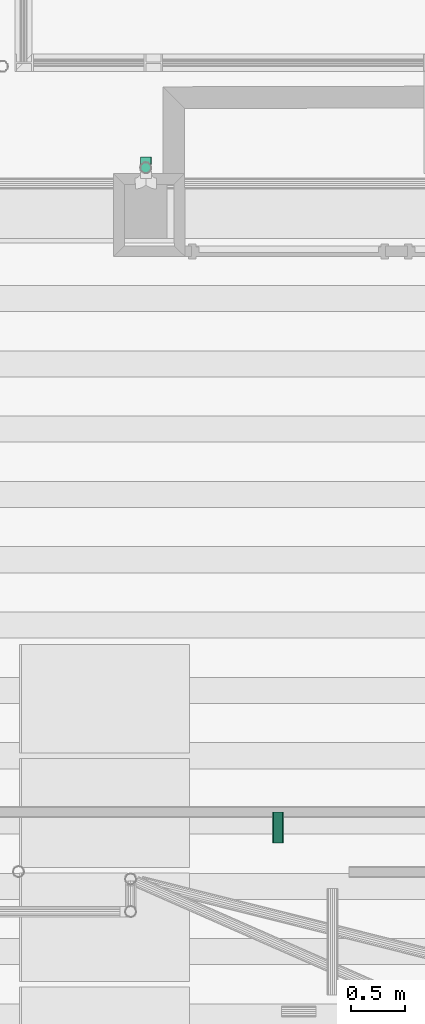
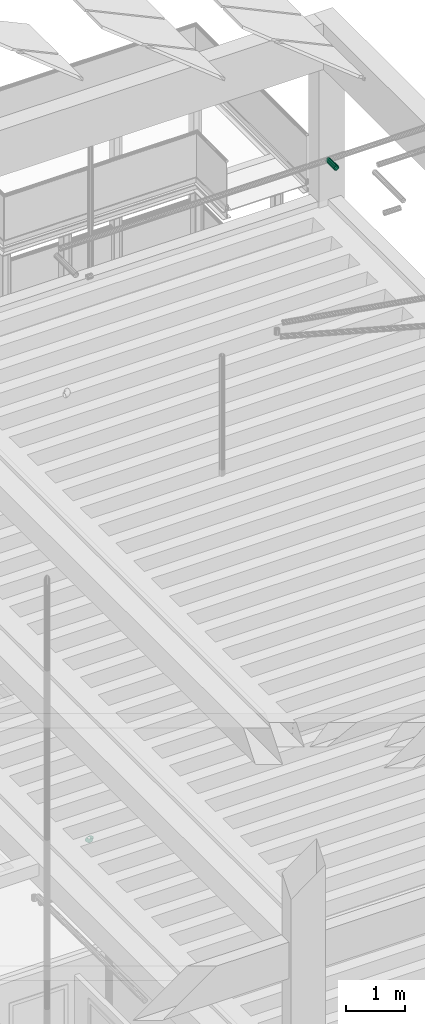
# One storey, part 99 of 108: 1 flow fitting, 1 flow segment.
"""IFC2X3 building model written with IfcOpenShell, lengths in metres."""

from ifc_helpers import new_model, entity, si_unit, converted_unit, derived_unit, money_unit, direction, frame, origin_with_axes, place, context, subcontext, project, spatial, open_shell, faceted_brep, surface_model, material, type_object, element, save


model = new_model("IFC2X3")

# Units and contexts
model_context = context("Model", 3, precision=1e-05, world=origin_with_axes(), true_north=direction((0.0, 1.0)))
body_context = subcontext(model_context, "Body", "Model", "MODEL_VIEW", scale=1.0)
ifc_project = project(units=[si_unit("LENGTHUNIT", "METRE"), si_unit("AREAUNIT", "SQUARE_METRE"), si_unit("VOLUMEUNIT", "CUBIC_METRE"), si_unit("ABSORBEDDOSEUNIT", "GRAY"), si_unit("AMOUNTOFSUBSTANCEUNIT", "MOLE"), si_unit("DOSEEQUIVALENTUNIT", "SIEVERT"), si_unit("ELECTRICCAPACITANCEUNIT", "FARAD"), si_unit("ELECTRICCHARGEUNIT", "COULOMB"), si_unit("ELECTRICCONDUCTANCEUNIT", "SIEMENS"), si_unit("ELECTRICCURRENTUNIT", "AMPERE"), si_unit("ELECTRICRESISTANCEUNIT", "OHM"), si_unit("ELECTRICVOLTAGEUNIT", "VOLT"), si_unit("ENERGYUNIT", "JOULE"), si_unit("FORCEUNIT", "NEWTON"), si_unit("FREQUENCYUNIT", "HERTZ"), si_unit("ILLUMINANCEUNIT", "LUX"), si_unit("INDUCTANCEUNIT", "HENRY"), si_unit("LUMINOUSFLUXUNIT", "LUMEN"), si_unit("LUMINOUSINTENSITYUNIT", "CANDELA"), si_unit("MAGNETICFLUXDENSITYUNIT", "TESLA"), si_unit("MAGNETICFLUXUNIT", "WEBER"), si_unit("MASSUNIT", "GRAM"), converted_unit("PLANEANGLEUNIT", "degree", entity("IfcReal", 0.0174532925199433), si_unit("PLANEANGLEUNIT", "RADIAN"), dimensions=[0, 0, 0, 0, 0, 0, 0]), si_unit("POWERUNIT", "WATT"), si_unit("PRESSUREUNIT", "PASCAL"), si_unit("RADIOACTIVITYUNIT", "BECQUEREL"), si_unit("SOLIDANGLEUNIT", "STERADIAN"), si_unit("THERMODYNAMICTEMPERATUREUNIT", "KELVIN"), si_unit("TIMEUNIT", "SECOND"), derived_unit("ACCELERATIONUNIT", [(si_unit("LENGTHUNIT", "METRE"), 1), (si_unit("TIMEUNIT", "SECOND"), -2)]), derived_unit("ANGULARVELOCITYUNIT", [(converted_unit("PLANEANGLEUNIT", "degree", entity("IfcReal", 0.0174532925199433), si_unit("PLANEANGLEUNIT", "RADIAN"), dimensions=[0, 0, 0, 0, 0, 0, 0]), 1), (si_unit("TIMEUNIT", "SECOND"), -1)]), derived_unit("CURVATUREUNIT", [(converted_unit("PLANEANGLEUNIT", "degree", entity("IfcReal", 0.0174532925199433), si_unit("PLANEANGLEUNIT", "RADIAN"), dimensions=[0, 0, 0, 0, 0, 0, 0]), 1), (si_unit("LENGTHUNIT", "METRE"), -1)]), derived_unit("DYNAMICVISCOSITYUNIT", [(si_unit("PRESSUREUNIT", "PASCAL"), 1), (si_unit("TIMEUNIT", "SECOND"), 1)]), derived_unit("HEATFLUXDENSITYUNIT", [(si_unit("POWERUNIT", "WATT"), 1), (si_unit("LENGTHUNIT", "METRE"), -2)]), derived_unit("HEATINGVALUEUNIT", [(si_unit("ENERGYUNIT", "JOULE"), 1), (si_unit("MASSUNIT", "GRAM"), -1)]), derived_unit("INTEGERCOUNTRATEUNIT", [(si_unit("TIMEUNIT", "SECOND"), -1)]), derived_unit("IONCONCENTRATIONUNIT", [(si_unit("MASSUNIT", "GRAM"), 1), (si_unit("VOLUMEUNIT", "CUBIC_METRE"), -1)]), derived_unit("ISOTHERMALMOISTURECAPACITYUNIT", [(si_unit("VOLUMEUNIT", "CUBIC_METRE"), 1), (si_unit("MASSUNIT", "GRAM"), -1)]), derived_unit("KINEMATICVISCOSITYUNIT", [(si_unit("AREAUNIT", "SQUARE_METRE"), 1), (si_unit("TIMEUNIT", "SECOND"), -1)]), derived_unit("LINEARFORCEUNIT", [(si_unit("FORCEUNIT", "NEWTON"), 1), (si_unit("LENGTHUNIT", "METRE"), -1)]), derived_unit("LINEARMOMENTUNIT", [(si_unit("FORCEUNIT", "NEWTON"), 1), (si_unit("LENGTHUNIT", "METRE"), -1)]), derived_unit("LINEARSTIFFNESSUNIT", [(si_unit("FORCEUNIT", "NEWTON"), 1), (si_unit("LENGTHUNIT", "METRE"), -1)]), derived_unit("LINEARVELOCITYUNIT", [(si_unit("LENGTHUNIT", "METRE"), 1), (si_unit("TIMEUNIT", "SECOND"), -1)]), derived_unit("LUMINOUSINTENSITYDISTRIBUTIONUNIT", [(si_unit("LUMINOUSINTENSITYUNIT", "CANDELA"), 1), (si_unit("LUMINOUSFLUXUNIT", "LUMEN"), -1)]), derived_unit("MASSDENSITYUNIT", [(si_unit("MASSUNIT", "GRAM"), 1), (si_unit("VOLUMEUNIT", "CUBIC_METRE"), -1)]), derived_unit("MASSFLOWRATEUNIT", [(si_unit("MASSUNIT", "GRAM"), 1), (si_unit("TIMEUNIT", "SECOND"), -1)]), derived_unit("MASSPERLENGTHUNIT", [(si_unit("MASSUNIT", "GRAM"), 1), (si_unit("LENGTHUNIT", "METRE"), -1)]), derived_unit("MODULUSOFELASTICITYUNIT", [(si_unit("FORCEUNIT", "NEWTON"), 1), (si_unit("AREAUNIT", "SQUARE_METRE"), -1)]), derived_unit("MODULUSOFLINEARSUBGRADEREACTIONUNIT", [(si_unit("FORCEUNIT", "NEWTON"), 1), (si_unit("LENGTHUNIT", "METRE"), -2)]), derived_unit("MODULUSOFROTATIONALSUBGRADEREACTIONUNIT", [(si_unit("FORCEUNIT", "NEWTON"), 1), (si_unit("LENGTHUNIT", "METRE"), 1)]), derived_unit("MODULUSOFSUBGRADEREACTIONUNIT", [(si_unit("FORCEUNIT", "NEWTON"), 1), (si_unit("VOLUMEUNIT", "CUBIC_METRE"), -1)]), derived_unit("MOISTUREDIFFUSIVITYUNIT", [(si_unit("VOLUMEUNIT", "CUBIC_METRE"), 1), (si_unit("TIMEUNIT", "SECOND"), -1)]), derived_unit("MOLECULARWEIGHTUNIT", [(si_unit("MASSUNIT", "GRAM"), 1), (si_unit("AMOUNTOFSUBSTANCEUNIT", "MOLE"), -1)]), derived_unit("PLANARFORCEUNIT", [(si_unit("FORCEUNIT", "NEWTON"), 1), (si_unit("LENGTHUNIT", "METRE"), -2)]), derived_unit("ROTATIONALFREQUENCYUNIT", [(si_unit("TIMEUNIT", "SECOND"), -1)]), derived_unit("ROTATIONALMASSUNIT", [(si_unit("MASSUNIT", "GRAM"), 1), (si_unit("LENGTHUNIT", "METRE"), 2)]), derived_unit("ROTATIONALSTIFFNESSUNIT", [(si_unit("FORCEUNIT", "NEWTON"), 1), (si_unit("LENGTHUNIT", "METRE"), 1), (converted_unit("PLANEANGLEUNIT", "degree", entity("IfcReal", 0.0174532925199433), si_unit("PLANEANGLEUNIT", "RADIAN"), dimensions=[0, 0, 0, 0, 0, 0, 0]), -1)]), derived_unit("SECTIONAREAINTEGRALUNIT", [(si_unit("LENGTHUNIT", "METRE"), 5)]), derived_unit("SECTIONMODULUSUNIT", [(si_unit("LENGTHUNIT", "METRE"), 3)]), derived_unit("SHEARMODULUSUNIT", [(si_unit("FORCEUNIT", "NEWTON"), 1), (si_unit("AREAUNIT", "SQUARE_METRE"), -1)]), derived_unit("SOUNDPOWERUNIT", [(si_unit("ENERGYUNIT", "JOULE"), 1), (si_unit("TIMEUNIT", "SECOND"), -1)]), derived_unit("SPECIFICHEATCAPACITYUNIT", [(si_unit("FORCEUNIT", "NEWTON"), 1), (si_unit("MASSUNIT", "GRAM"), -1), (si_unit("THERMODYNAMICTEMPERATUREUNIT", "KELVIN"), -1)]), derived_unit("TEMPERATUREGRADIENTUNIT", [(si_unit("THERMODYNAMICTEMPERATUREUNIT", "KELVIN"), 1), (si_unit("LENGTHUNIT", "METRE"), -1)]), derived_unit("THERMALADMITTANCEUNIT", [(si_unit("POWERUNIT", "WATT"), 1), (si_unit("AREAUNIT", "SQUARE_METRE"), -1), (si_unit("THERMODYNAMICTEMPERATUREUNIT", "KELVIN"), -1)]), derived_unit("THERMALCONDUCTANCEUNIT", [(si_unit("POWERUNIT", "WATT"), 1), (si_unit("LENGTHUNIT", "METRE"), -1), (si_unit("THERMODYNAMICTEMPERATUREUNIT", "KELVIN"), -1)]), derived_unit("THERMALEXPANSIONCOEFFICIENTUNIT", [(si_unit("THERMODYNAMICTEMPERATUREUNIT", "KELVIN"), -1)]), derived_unit("THERMALRESISTANCEUNIT", [(si_unit("AREAUNIT", "SQUARE_METRE"), 1), (si_unit("POWERUNIT", "WATT"), -1)]), derived_unit("THERMALTRANSMITTANCEUNIT", [(si_unit("POWERUNIT", "WATT"), 1), (si_unit("AREAUNIT", "SQUARE_METRE"), -1), (si_unit("THERMODYNAMICTEMPERATUREUNIT", "KELVIN"), -1)]), derived_unit("TORQUEUNIT", [(si_unit("FORCEUNIT", "NEWTON"), 1), (si_unit("LENGTHUNIT", "METRE"), 1)]), derived_unit("VAPORPERMEABILITYUNIT", [(si_unit("MASSUNIT", "GRAM"), 1), (si_unit("TIMEUNIT", "SECOND"), -1)]), derived_unit("VOLUMETRICFLOWRATEUNIT", [(si_unit("VOLUMEUNIT", "CUBIC_METRE"), 1), (si_unit("TIMEUNIT", "SECOND"), -1)]), derived_unit("WARPINGCONSTANTUNIT", [(si_unit("LENGTHUNIT", "METRE"), 6)]), derived_unit("WARPINGMOMENTUNIT", [(si_unit("FORCEUNIT", "NEWTON"), 1), (si_unit("LENGTHUNIT", "METRE"), 2)]), money_unit("GBP")], contexts=[model_context])

# Site, building, storey
site_placement = place(None, origin_with_axes())
site = spatial("IfcSite", under=ifc_project, at=site_placement, Name="Site", CompositionType="ELEMENT")
building_placement = place(site_placement, origin_with_axes())
building = spatial("IfcBuilding", under=site, at=building_placement, Name="Building01", CompositionType="ELEMENT")
storey_placement = place(building_placement, origin_with_axes())
storey = spatial("IfcBuildingStorey", under=building, at=storey_placement, Name="GF", CompositionType="ELEMENT", Elevation=0.0)

# Flow segment
ifc_material_1 = material(Name="M_BSUK_Ventilation")
duct_segment_type = type_object("IfcDuctSegmentType", Name="M-RoundDuct", PredefinedType="RIGIDSEGMENT")
flow_segment_placement = place(storey_placement, frame((23.43, 8.749648, 17.28), z_axis=(0.0, 0.0, 1.0), x_axis=(0.0, 1.0, 0.0)))
element("IfcFlowSegment", 1, at=flow_segment_placement, inside=storey, type_object=duct_segment_type, material=ifc_material_1, Name="M-RoundDuct", ObjectType="M-RoundDuct", context=body_context, shape_type="Brep", body=[
    faceted_brep([(0.282911, 0.0, -0.05), (0.0, 0.0, -0.05), (0.0, 0.019134, -0.046194), (0.282911, 0.019134, -0.046194), (0.0, 0.035355, -0.035355), (0.282911, 0.035355, -0.035355), (0.0, 0.046194, -0.019134), (0.282911, 0.046194, -0.019134), (0.0, 0.05, 0.0), (0.282911, 0.05, 0.0), (0.0, 0.046194, 0.019134), (0.282911, 0.046194, 0.019134), (0.0, 0.035355, 0.035355), (0.282911, 0.035355, 0.035355), (0.0, 0.019134, 0.046194), (0.282911, 0.019134, 0.046194), (0.0, 0.0, 0.05), (0.282911, 0.0, 0.05), (0.0, -0.019134, 0.046194), (0.282911, -0.019134, 0.046194), (0.0, -0.035355, 0.035355), (0.282911, -0.035355, 0.035355), (0.0, -0.046194, 0.019134), (0.282911, -0.046194, 0.019134), (0.0, -0.05, 0.0), (0.282911, -0.05, 0.0), (0.0, -0.046194, -0.019134), (0.282911, -0.046194, -0.019134), (0.0, -0.035355, -0.035355), (0.282911, -0.035355, -0.035355), (0.0, -0.019134, -0.046194), (0.282911, -0.019134, -0.046194)], [[[0, 1, 2, 3]], [[3, 2, 4, 5]], [[5, 4, 6, 7]], [[7, 6, 8, 9]], [[9, 8, 10, 11]], [[11, 10, 12, 13]], [[13, 12, 14, 15]], [[15, 14, 16, 17]], [[17, 16, 18, 19]], [[19, 18, 20, 21]], [[21, 20, 22, 23]], [[23, 22, 24, 25]], [[25, 24, 26, 27]], [[27, 26, 28, 29]], [[29, 28, 30, 31]], [[31, 30, 1, 0]]]),
])

# Space
space_placement = place(storey_placement, frame((22.371795, 15.69597, 0.0), z_axis=(0.0, 0.0, 1.0), x_axis=(0.99999771, 0.00214134, 0.0)))
space = spatial("IfcSpace", under=storey, at=space_placement, Name="bike store", CompositionType="ELEMENT", InteriorOrExteriorSpace="NOTDEFINED")

# Flow fitting
ifc_material_2 = material(Name="M_BSUK_ColdWater")
pipe_fitting_type = type_object("IfcPipeFittingType", Name="M-BmpElbow-DefaultElbow", PredefinedType="BEND")
flow_fitting_placement = place(storey_placement, frame((22.216022, 15.048, 0.056721), z_axis=(0.0, -0.01999682, -0.99980004), x_axis=(0.0, 0.99980004, -0.01999682)))
element("IfcFlowFitting", 2, at=flow_fitting_placement, inside=space, type_object=pipe_fitting_type, material=ifc_material_2, Name="M-BmpElbow-DefaultElbow", ObjectType="M-BmpElbow-DefaultElbow", context=body_context, shape_type="SurfaceModel", body=[
    surface_model("IfcShellBasedSurfaceModel", [(-0.008009, -0.01349, -0.048768), (0.0, -0.01349, -0.048146), (0.0, 0.0, -0.05), (-0.007723, 0.0, -0.0506), (-0.015826, -0.01349, -0.05062), (-0.015261, 0.0, -0.052386), (-0.023264, -0.01349, -0.053657), (-0.022432, 0.0, -0.055314), (-0.030143, -0.01349, -0.057807), (-0.029065, 0.0, -0.059315), (-0.036298, -0.01349, -0.062969), (-0.035, 0.0, -0.064293), (-0.041582, -0.01349, -0.06902), (-0.040095, 0.0, -0.070127), (-0.045868, -0.01349, -0.075814), (-0.044228, 0.0, -0.076679), (-0.049054, -0.01349, -0.083189), (-0.0473, 0.0, -0.08379), (-0.051061, -0.01349, -0.090968), (-0.049236, 0.0, -0.091291), (-0.051844, -0.01349, -0.098963), (-0.04999, 0.0, -0.099), (-0.008847, -0.025979, -0.043408), (0.0, -0.025979, -0.042721), (-0.017482, -0.025979, -0.045454), (-0.025697, -0.025979, -0.048809), (-0.033296, -0.025979, -0.053392), (-0.040095, -0.025979, -0.059095), (-0.045932, -0.025979, -0.065779), (-0.050667, -0.025979, -0.073284), (-0.054185, -0.025979, -0.081431), (-0.056403, -0.025979, -0.090023), (-0.057268, -0.025979, -0.098855), (-0.010175, -0.036542, -0.034918), (0.0, -0.036542, -0.034128), (-0.020105, -0.036542, -0.037271), (-0.029553, -0.036542, -0.041129), (-0.038291, -0.036542, -0.0464), (-0.046111, -0.036542, -0.052958), (-0.052823, -0.036542, -0.060645), (-0.058268, -0.036542, -0.069276), (-0.062315, -0.036542, -0.078645), (-0.064865, -0.036542, -0.088526), (-0.065859, -0.036542, -0.098683), (-0.011893, -0.044394, -0.023927), (0.0, -0.044394, -0.023003), (-0.0235, -0.044394, -0.026677), (-0.034544, -0.044394, -0.031187), (-0.044758, -0.044394, -0.037348), (-0.053898, -0.044394, -0.045013), (-0.061744, -0.044394, -0.053998), (-0.068109, -0.044394, -0.064087), (-0.072838, -0.044394, -0.075038), (-0.07582, -0.044394, -0.086588), (-0.076981, -0.044394, -0.09846), (-0.013875, -0.048954, -0.011251), (0.0, -0.048954, -0.010173), (-0.027416, -0.048954, -0.014459), (-0.0403, -0.048954, -0.01972), (-0.052216, -0.048954, -0.026908), (-0.062879, -0.048954, -0.035851), (-0.072033, -0.048954, -0.046333), (-0.079458, -0.048954, -0.058103), (-0.084976, -0.048954, -0.070879), (-0.088454, -0.048954, -0.084353), (-0.089809, -0.048954, -0.098204), (-0.015973, -0.049883, 0.002171), (0.0, -0.049883, 0.003412), (-0.031562, -0.049883, -0.001522), (-0.046394, -0.049883, -0.007579), (-0.060113, -0.049883, -0.015854), (-0.072389, -0.049883, -0.026149), (-0.082927, -0.049883, -0.038216), (-0.091475, -0.049883, -0.051767), (-0.097827, -0.049883, -0.066475), (-0.101831, -0.049883, -0.081987), (-0.103391, -0.049883, -0.097932), (-0.018032, -0.047113, 0.015343), (0.0, -0.047113, 0.016744), (-0.035632, -0.047113, 0.011174), (-0.052376, -0.047113, 0.004336), (-0.067863, -0.047113, -0.005006), (-0.081721, -0.047113, -0.016628), (-0.093618, -0.047113, -0.030251), (-0.103268, -0.047113, -0.045548), (-0.110439, -0.047113, -0.062153), (-0.114959, -0.047113, -0.079665), (-0.116721, -0.047113, -0.097665), (-0.0199, -0.040848, 0.027288), (0.0, -0.040848, 0.028834), (-0.039322, -0.040848, 0.022687), (-0.0578, -0.040848, 0.015141), (-0.074891, -0.040848, 0.004831), (-0.090184, -0.040848, -0.007994), (-0.103313, -0.040848, -0.023028), (-0.113962, -0.040848, -0.039909), (-0.121876, -0.040848, -0.058233), (-0.126865, -0.040848, -0.077559), (-0.128808, -0.040848, -0.097424), (-0.021437, -0.031554, 0.03712), (0.0, -0.031554, 0.038786), (-0.042359, -0.031554, 0.032163), (-0.062264, -0.031554, 0.024035), (-0.080675, -0.031554, 0.012929), (-0.09715, -0.031554, -0.000887), (-0.111293, -0.031554, -0.017083), (-0.122765, -0.031554, -0.035268), (-0.13129, -0.031554, -0.055007), (-0.136664, -0.031554, -0.075826), (-0.138758, -0.031554, -0.097225), (-0.022529, -0.01992, 0.04411), (0.0, -0.01992, 0.045861), (-0.044518, -0.01992, 0.038901), (-0.065438, -0.01992, 0.030358), (-0.084788, -0.01992, 0.018686), (-0.102103, -0.01992, 0.004165), (-0.116966, -0.01992, -0.012856), (-0.129023, -0.01992, -0.031968), (-0.137983, -0.01992, -0.052713), (-0.143631, -0.01992, -0.074593), (-0.145831, -0.01992, -0.097083), (-0.023097, -0.006808, 0.04774), (0.0, -0.006808, 0.049534), (-0.045639, -0.006808, 0.042399), (-0.067087, -0.006808, 0.033641), (-0.086924, -0.006808, 0.021675), (-0.104674, -0.006808, 0.006789), (-0.119912, -0.006808, -0.010661), (-0.132273, -0.006808, -0.030254), (-0.141458, -0.006808, -0.051522), (-0.147248, -0.006808, -0.073953), (-0.149504, -0.006808, -0.09701), (-0.023097, 0.006808, 0.04774), (0.0, 0.006808, 0.049534), (-0.045639, 0.006808, 0.042399), (-0.067087, 0.006808, 0.033641), (-0.086924, 0.006808, 0.021675), (-0.104674, 0.006808, 0.006789), (-0.119912, 0.006808, -0.010661), (-0.132273, 0.006808, -0.030254), (-0.141458, 0.006808, -0.051522), (-0.147248, 0.006808, -0.073953), (-0.149504, 0.006808, -0.09701), (-0.022529, 0.01992, 0.04411), (0.0, 0.01992, 0.045861), (-0.044518, 0.01992, 0.038901), (-0.065438, 0.01992, 0.030358), (-0.084788, 0.01992, 0.018686), (-0.102103, 0.01992, 0.004165), (-0.116966, 0.01992, -0.012856), (-0.129023, 0.01992, -0.031968), (-0.137983, 0.01992, -0.052713), (-0.143631, 0.01992, -0.074593), (-0.145831, 0.01992, -0.097083), (-0.021437, 0.031554, 0.03712), (0.0, 0.031554, 0.038786), (-0.042359, 0.031554, 0.032163), (-0.062264, 0.031554, 0.024035), (-0.080675, 0.031554, 0.012929), (-0.09715, 0.031554, -0.000887), (-0.111293, 0.031554, -0.017083), (-0.122765, 0.031554, -0.035268), (-0.13129, 0.031554, -0.055007), (-0.136664, 0.031554, -0.075826), (-0.138758, 0.031554, -0.097225), (-0.0199, 0.040848, 0.027288), (0.0, 0.040848, 0.028834), (-0.039322, 0.040848, 0.022687), (-0.0578, 0.040848, 0.015141), (-0.074891, 0.040848, 0.004831), (-0.090184, 0.040848, -0.007994), (-0.103313, 0.040848, -0.023028), (-0.113962, 0.040848, -0.039909), (-0.121876, 0.040848, -0.058233), (-0.126865, 0.040848, -0.077559), (-0.128808, 0.040848, -0.097424), (-0.018032, 0.047113, 0.015343), (0.0, 0.047113, 0.016744), (-0.035632, 0.047113, 0.011174), (-0.052376, 0.047113, 0.004336), (-0.067863, 0.047113, -0.005006), (-0.081721, 0.047113, -0.016628), (-0.093618, 0.047113, -0.030251), (-0.103268, 0.047113, -0.045548), (-0.110439, 0.047113, -0.062153), (-0.114959, 0.047113, -0.079665), (-0.116721, 0.047113, -0.097665), (-0.015973, 0.049883, 0.002171), (0.0, 0.049883, 0.003412), (-0.031562, 0.049883, -0.001522), (-0.046394, 0.049883, -0.007579), (-0.060113, 0.049883, -0.015854), (-0.072389, 0.049883, -0.026149), (-0.082927, 0.049883, -0.038216), (-0.091475, 0.049883, -0.051767), (-0.097827, 0.049883, -0.066475), (-0.101831, 0.049883, -0.081987), (-0.103391, 0.049883, -0.097932), (-0.013875, 0.048954, -0.011251), (0.0, 0.048954, -0.010173), (-0.027416, 0.048954, -0.014459), (-0.0403, 0.048954, -0.01972), (-0.052216, 0.048954, -0.026908), (-0.062879, 0.048954, -0.035851), (-0.072033, 0.048954, -0.046333), (-0.079458, 0.048954, -0.058103), (-0.084976, 0.048954, -0.070879), (-0.088454, 0.048954, -0.084353), (-0.089809, 0.048954, -0.098204), (-0.011893, 0.044394, -0.023927), (0.0, 0.044394, -0.023003), (-0.0235, 0.044394, -0.026677), (-0.034544, 0.044394, -0.031187), (-0.044758, 0.044394, -0.037348), (-0.053898, 0.044394, -0.045013), (-0.061744, 0.044394, -0.053998), (-0.068109, 0.044394, -0.064087), (-0.072838, 0.044394, -0.075038), (-0.07582, 0.044394, -0.086588), (-0.076981, 0.044394, -0.09846), (-0.010175, 0.036542, -0.034918), (0.0, 0.036542, -0.034128), (-0.020105, 0.036542, -0.037271), (-0.029553, 0.036542, -0.041129), (-0.038291, 0.036542, -0.0464), (-0.046111, 0.036542, -0.052958), (-0.052823, 0.036542, -0.060645), (-0.058268, 0.036542, -0.069276), (-0.062315, 0.036542, -0.078645), (-0.064865, 0.036542, -0.088526), (-0.065859, 0.036542, -0.098683), (-0.008847, 0.025979, -0.043408), (0.0, 0.025979, -0.042721), (-0.017482, 0.025979, -0.045454), (-0.025697, 0.025979, -0.048809), (-0.033296, 0.025979, -0.053392), (-0.040095, 0.025979, -0.059095), (-0.045932, 0.025979, -0.065779), (-0.050667, 0.025979, -0.073284), (-0.054185, 0.025979, -0.081431), (-0.056403, 0.025979, -0.090023), (-0.057268, 0.025979, -0.098855), (-0.008009, 0.01349, -0.048768), (0.0, 0.01349, -0.048146), (-0.015826, 0.01349, -0.05062), (-0.023264, 0.01349, -0.053657), (-0.030143, 0.01349, -0.057807), (-0.036298, 0.01349, -0.062969), (-0.041582, 0.01349, -0.06902), (-0.045868, 0.01349, -0.075814), (-0.049054, 0.01349, -0.083189), (-0.051061, 0.01349, -0.090968), (-0.051844, 0.01349, -0.098963)], [open_shell([[[0, 1, 2, 3]], [[4, 0, 3, 5]], [[6, 4, 5, 7]], [[8, 6, 7, 9]], [[10, 8, 9, 11]], [[12, 10, 11, 13]], [[14, 12, 13, 15]], [[16, 14, 15, 17]], [[18, 16, 17, 19]], [[20, 18, 19, 21]], [[22, 23, 1, 0]], [[24, 22, 0, 4]], [[25, 24, 4, 6]], [[26, 25, 6, 8]], [[27, 26, 8, 10]], [[28, 27, 10, 12]], [[29, 28, 12, 14]], [[30, 29, 14, 16]], [[31, 30, 16, 18]], [[32, 31, 18, 20]], [[33, 34, 23, 22]], [[35, 33, 22, 24]], [[36, 35, 24, 25]], [[37, 36, 25, 26]], [[38, 37, 26, 27]], [[39, 38, 27, 28]], [[40, 39, 28, 29]], [[41, 40, 29, 30]], [[42, 41, 30, 31]], [[43, 42, 31, 32]], [[44, 45, 34, 33]], [[46, 44, 33, 35]], [[47, 46, 35, 36]], [[48, 47, 36, 37]], [[49, 48, 37, 38]], [[50, 49, 38, 39]], [[51, 50, 39, 40]], [[52, 51, 40, 41]], [[53, 52, 41, 42]], [[54, 53, 42, 43]], [[55, 56, 45, 44]], [[57, 55, 44, 46]], [[58, 57, 46, 47]], [[59, 58, 47, 48]], [[60, 59, 48, 49]], [[61, 60, 49, 50]], [[62, 61, 50, 51]], [[63, 62, 51, 52]], [[64, 63, 52, 53]], [[65, 64, 53, 54]], [[66, 67, 56, 55]], [[68, 66, 55, 57]], [[69, 68, 57, 58]], [[70, 69, 58, 59]], [[71, 70, 59, 60]], [[72, 71, 60, 61]], [[73, 72, 61, 62]], [[74, 73, 62, 63]], [[75, 74, 63, 64]], [[76, 75, 64, 65]], [[77, 78, 67, 66]], [[79, 77, 66, 68]], [[80, 79, 68, 69]], [[81, 80, 69, 70]], [[82, 81, 70, 71]], [[83, 82, 71, 72]], [[84, 83, 72, 73]], [[85, 84, 73, 74]], [[86, 85, 74, 75]], [[87, 86, 75, 76]], [[88, 89, 78, 77]], [[90, 88, 77, 79]], [[91, 90, 79, 80]], [[92, 91, 80, 81]], [[93, 92, 81, 82]], [[94, 93, 82, 83]], [[95, 94, 83, 84]], [[96, 95, 84, 85]], [[97, 96, 85, 86]], [[98, 97, 86, 87]], [[99, 100, 89, 88]], [[101, 99, 88, 90]], [[102, 101, 90, 91]], [[103, 102, 91, 92]], [[104, 103, 92, 93]], [[105, 104, 93, 94]], [[106, 105, 94, 95]], [[107, 106, 95, 96]], [[108, 107, 96, 97]], [[109, 108, 97, 98]], [[110, 111, 100, 99]], [[112, 110, 99, 101]], [[113, 112, 101, 102]], [[114, 113, 102, 103]], [[115, 114, 103, 104]], [[116, 115, 104, 105]], [[117, 116, 105, 106]], [[118, 117, 106, 107]], [[119, 118, 107, 108]], [[120, 119, 108, 109]], [[121, 122, 111, 110]], [[123, 121, 110, 112]], [[124, 123, 112, 113]], [[125, 124, 113, 114]], [[126, 125, 114, 115]], [[127, 126, 115, 116]], [[128, 127, 116, 117]], [[129, 128, 117, 118]], [[130, 129, 118, 119]], [[131, 130, 119, 120]], [[132, 133, 122, 121]], [[134, 132, 121, 123]], [[135, 134, 123, 124]], [[136, 135, 124, 125]], [[137, 136, 125, 126]], [[138, 137, 126, 127]], [[139, 138, 127, 128]], [[140, 139, 128, 129]], [[141, 140, 129, 130]], [[142, 141, 130, 131]], [[143, 144, 133, 132]], [[145, 143, 132, 134]], [[146, 145, 134, 135]], [[147, 146, 135, 136]], [[148, 147, 136, 137]], [[149, 148, 137, 138]], [[150, 149, 138, 139]], [[151, 150, 139, 140]], [[152, 151, 140, 141]], [[153, 152, 141, 142]], [[154, 155, 144, 143]], [[156, 154, 143, 145]], [[157, 156, 145, 146]], [[158, 157, 146, 147]], [[159, 158, 147, 148]], [[160, 159, 148, 149]], [[161, 160, 149, 150]], [[162, 161, 150, 151]], [[163, 162, 151, 152]], [[164, 163, 152, 153]], [[165, 166, 155, 154]], [[167, 165, 154, 156]], [[168, 167, 156, 157]], [[169, 168, 157, 158]], [[170, 169, 158, 159]], [[171, 170, 159, 160]], [[172, 171, 160, 161]], [[173, 172, 161, 162]], [[174, 173, 162, 163]], [[175, 174, 163, 164]], [[176, 177, 166, 165]], [[178, 176, 165, 167]], [[179, 178, 167, 168]], [[180, 179, 168, 169]], [[181, 180, 169, 170]], [[182, 181, 170, 171]], [[183, 182, 171, 172]], [[184, 183, 172, 173]], [[185, 184, 173, 174]], [[186, 185, 174, 175]], [[187, 188, 177, 176]], [[189, 187, 176, 178]], [[190, 189, 178, 179]], [[191, 190, 179, 180]], [[192, 191, 180, 181]], [[193, 192, 181, 182]], [[194, 193, 182, 183]], [[195, 194, 183, 184]], [[196, 195, 184, 185]], [[197, 196, 185, 186]], [[198, 199, 188, 187]], [[200, 198, 187, 189]], [[201, 200, 189, 190]], [[202, 201, 190, 191]], [[203, 202, 191, 192]], [[204, 203, 192, 193]], [[205, 204, 193, 194]], [[206, 205, 194, 195]], [[207, 206, 195, 196]], [[208, 207, 196, 197]], [[209, 210, 199, 198]], [[211, 209, 198, 200]], [[212, 211, 200, 201]], [[213, 212, 201, 202]], [[214, 213, 202, 203]], [[215, 214, 203, 204]], [[216, 215, 204, 205]], [[217, 216, 205, 206]], [[218, 217, 206, 207]], [[219, 218, 207, 208]], [[220, 221, 210, 209]], [[222, 220, 209, 211]], [[223, 222, 211, 212]], [[224, 223, 212, 213]], [[225, 224, 213, 214]], [[226, 225, 214, 215]], [[227, 226, 215, 216]], [[228, 227, 216, 217]], [[229, 228, 217, 218]], [[230, 229, 218, 219]], [[231, 232, 221, 220]], [[233, 231, 220, 222]], [[234, 233, 222, 223]], [[235, 234, 223, 224]], [[236, 235, 224, 225]], [[237, 236, 225, 226]], [[238, 237, 226, 227]], [[239, 238, 227, 228]], [[240, 239, 228, 229]], [[241, 240, 229, 230]], [[242, 243, 232, 231]], [[244, 242, 231, 233]], [[245, 244, 233, 234]], [[246, 245, 234, 235]], [[247, 246, 235, 236]], [[248, 247, 236, 237]], [[249, 248, 237, 238]], [[250, 249, 238, 239]], [[251, 250, 239, 240]], [[252, 251, 240, 241]], [[3, 2, 243, 242]], [[5, 3, 242, 244]], [[7, 5, 244, 245]], [[9, 7, 245, 246]], [[11, 9, 246, 247]], [[13, 11, 247, 248]], [[15, 13, 248, 249]], [[17, 15, 249, 250]], [[19, 17, 250, 251]], [[21, 19, 251, 252]]])]),
])

save(model, "model.ifc")
